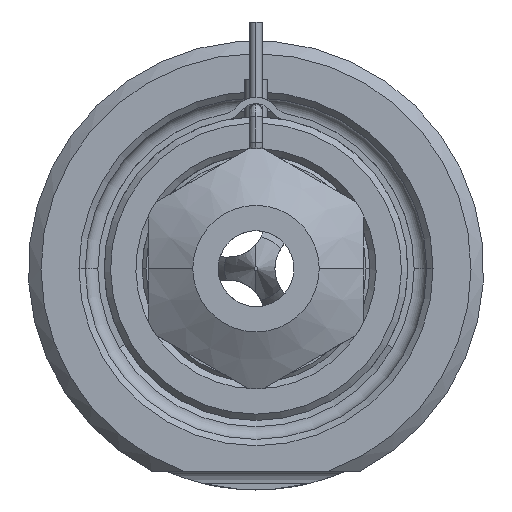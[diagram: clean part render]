
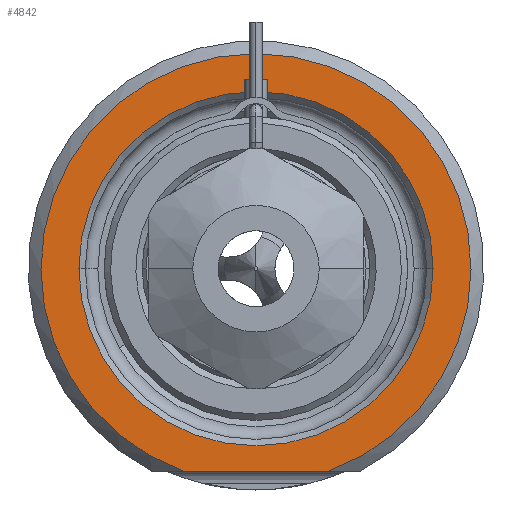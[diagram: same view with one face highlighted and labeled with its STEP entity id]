
A CAD part, front view. The second image highlights one B-rep face of the part: STEP entity #4842.
In plain terms, the highlighted planar face has unit normal (0, -1, 0).
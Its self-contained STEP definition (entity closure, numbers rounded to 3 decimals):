
#1280=CARTESIAN_POINT('',(0.,0.,0.));
#1281=DIRECTION('',(0.,-1.,0.));
#1282=DIRECTION('',(0.338,0.,-0.941));
#1283=AXIS2_PLACEMENT_3D('',#1280,#1281,#1282);
#1304=DIRECTION('',(1.,0.,0.));
#1305=VECTOR('',#1304,11.489);
#1306=CARTESIAN_POINT('',(-5.745,0.,-16.));
#1307=LINE('',#1306,#1305);
#1308=CARTESIAN_POINT('',(0.,0.,0.));
#1309=DIRECTION('',(0.,1.,0.));
#1310=DIRECTION('',(-1.,0.,0.));
#1311=AXIS2_PLACEMENT_3D('',#1308,#1309,#1310);
#1313=CARTESIAN_POINT('',(0.,0.,0.));
#1314=DIRECTION('',(0.,1.,0.));
#1315=DIRECTION('',(1.,0.,0.));
#1316=AXIS2_PLACEMENT_3D('',#1313,#1314,#1315);
#3005=CARTESIAN_POINT('',(-14.,0.,0.));
#3006=CARTESIAN_POINT('',(14.,0.,0.));
#3007=VERTEX_POINT('',#3005);
#3008=VERTEX_POINT('',#3006);
#3045=CARTESIAN_POINT('',(-5.745,0.,-16.));
#3046=CARTESIAN_POINT('',(5.745,0.,-16.));
#3047=VERTEX_POINT('',#3045);
#3048=VERTEX_POINT('',#3046);
#4827=CARTESIAN_POINT('',(0.,0.,0.));
#4828=DIRECTION('',(0.,-1.,0.));
#4829=DIRECTION('',(1.,0.,0.));
#4830=AXIS2_PLACEMENT_3D('',#4827,#4828,#4829);
#4831=PLANE('',#4830);
#4832=ORIENTED_EDGE('',*,*,#4759,.F.);
#4833=ORIENTED_EDGE('',*,*,#4819,.F.);
#4834=EDGE_LOOP('',(#4832,#4833));
#4835=FACE_OUTER_BOUND('',#4834,.F.);
#4837=ORIENTED_EDGE('',*,*,#4836,.F.);
#4839=ORIENTED_EDGE('',*,*,#4838,.F.);
#4840=EDGE_LOOP('',(#4837,#4839));
#4841=FACE_BOUND('',#4840,.F.);
#4842=ADVANCED_FACE('',(#4835,#4841),#4831,.T.);
#1284=CIRCLE('',#1283,17.);
#1312=CIRCLE('',#1311,14.);
#1317=CIRCLE('',#1316,14.);
#4759=EDGE_CURVE('',#3047,#3048,#1307,.T.);
#4819=EDGE_CURVE('',#3048,#3047,#1284,.T.);
#4836=EDGE_CURVE('',#3007,#3008,#1312,.T.);
#4838=EDGE_CURVE('',#3008,#3007,#1317,.T.);
